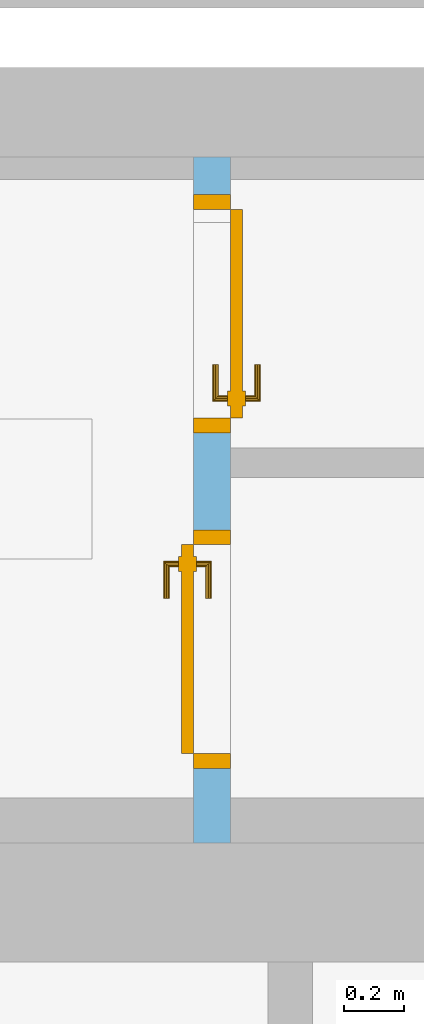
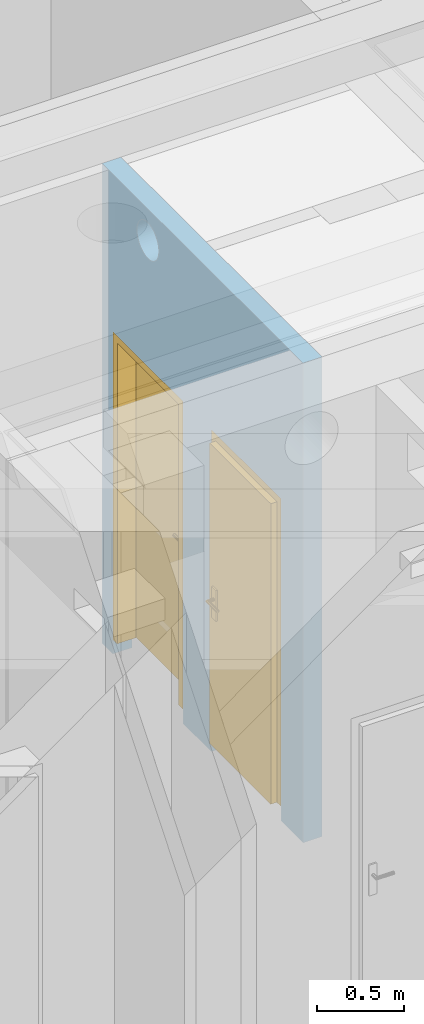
# One storey, part 77 of 140: 2 doors, 3 openings, plus 1 element that does not belong to this part.
"""IFC4 building model written with IfcOpenShell, lengths in metres."""

from ifc_helpers import new_model, entity, si_unit, converted_unit, derived_unit, frame, frame_2d, origin, origin_with_axes, place, context, subcontext, project, spatial, polyline, rectangle, outline, extrude, closed_shell, open_shell, surface_model, source, transform, mapped, material, layer, layer_set, layer_usage, type_object, element, fill, save


model = new_model("IFC4")

# Units and contexts
model_context = context("Model", 3, precision=1e-05, world=origin())
body_context = subcontext(model_context, "Body", "Model", "MODEL_VIEW")
ifc_project = project(units=[si_unit("LENGTHUNIT", "METRE"), si_unit("AREAUNIT", "SQUARE_METRE"), si_unit("VOLUMEUNIT", "CUBIC_METRE"), si_unit("MASSUNIT", "GRAM", prefix="KILO"), converted_unit("PLANEANGLEUNIT", "DEGREE", entity("IfcPlaneAngleMeasure", 0.0174532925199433), si_unit("PLANEANGLEUNIT", "RADIAN"), dimensions=[0, 0, 0, 0, 0, 0, 0]), derived_unit("THERMALTRANSMITTANCEUNIT", [(si_unit("POWERUNIT", "WATT"), 1), (si_unit("THERMODYNAMICTEMPERATUREUNIT", "KELVIN"), -1), (si_unit("LENGTHUNIT", "METRE"), -2)]), derived_unit("VOLUMETRICFLOWRATEUNIT", [(si_unit("LENGTHUNIT", "METRE"), 3), (converted_unit("TIMEUNIT", "hour", entity("IfcTimeMeasure", 3600.0), si_unit("TIMEUNIT", "SECOND"), dimensions=[0, 0, 1, 0, 0, 0, 0]), -1), (si_unit("LENGTHUNIT", "METRE"), -1)])], contexts=[model_context])

# Site, building, storey
site_placement = place(None, origin())
site = spatial("IfcSite", under=ifc_project, at=site_placement, Name="3. ASŘ", CompositionType="ELEMENT")
building_placement = place(site_placement, origin())
building = spatial("IfcBuilding", under=site, at=building_placement, Name="Pavilon C", CompositionType="ELEMENT")
storey_placement = place(building_placement, origin())
storey = spatial("IfcBuildingStorey", under=building, at=storey_placement, Name="Půdorys 1.NP", CompositionType="ELEMENT", Elevation=0.0)

# Wall, openings, doors
ifc_material = material(Name="SDK - 1 KCE + DVOJITÉ OPLÁŠTĚNÍ")
ifc_layer = layer(ifc_material, 0.125)
ifc_layer_set = layer_set([ifc_layer])
ifc_layer_usage = layer_usage(ifc_layer_set, "AXIS2", "POSITIVE", -0.125)
wall_placement = place(storey_placement, frame((38.875, -6.8, -0.1), z_axis=(0.0, 0.0, 1.0), x_axis=(0.0, 1.0, 0.0)))
wall = element("IfcWall", 1, at=wall_placement, inside=storey, material=ifc_layer_usage, Name="SDK - 1 KCE + DVOJITÉ OPLÁŠTĚNÍ", context=body_context, shape_type="SweptSolid", body=[
    extrude(rectangle(XDim=2.3, YDim=0.125, at=frame_2d((1.15, 0.0625), x_axis=(1.0, 0.0))), origin_with_axes(), (0.0, 0.0, 1.0), 3.35),
])
opening_1_placement = place(wall_placement, frame((1.05, 0.125, -0.2), z_axis=(0.0, -1.0, 0.0), x_axis=(0.0, 0.0, 1.0)))
opening_1 = element("IfcOpeningElement", 2, at=opening_1_placement, cuts=wall, Name="Dveřní otvor", ObjectType="Opening", context=body_context, shape_type="SweptSolid", body=[
    extrude(outline(polyline([(0.0, 0.8), (2.45, 0.8), (2.45, 0.0), (0.0, 0.0), (0.0, 0.8)])), origin_with_axes(), (0.0, 0.0, 1.0), 0.125),
])
opening_2_placement = place(wall_placement, frame((1.375, 0.0, -0.2), z_axis=(0.0, 1.0, 0.0), x_axis=(0.0, 0.0, 1.0)))
opening_2 = element("IfcOpeningElement", 3, at=opening_2_placement, cuts=wall, Name="Dveřní otvor", ObjectType="Opening", context=body_context, shape_type="SweptSolid", body=[
    extrude(outline(polyline([(0.0, 0.8), (2.45, 0.8), (2.45, 0.0), (0.0, 0.0), (0.0, 0.8)])), origin_with_axes(), (0.0, 0.0, 1.0), 0.125),
])
opening_3_placement = place(wall_placement, frame((1.89999999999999, 0.125000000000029, 3.005), z_axis=(0.0, -1.0, 0.0), x_axis=(0.0, 0.0, 1.0)))
element("IfcOpeningElement", 4, at=opening_3_placement, cuts=wall, Name="VZT", ObjectType="Opening", context=body_context, shape_type="SweptSolid", body=[
    extrude(outline(polyline([(0.124999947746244, 0.0), (0.11193389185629, 0.000684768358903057), (0.099010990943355, 0.00273156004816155), (0.0863728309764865, 0.00611794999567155), (0.0741578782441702, 0.0108068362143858), (0.0624999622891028, 0.0167468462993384), (0.0515268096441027, 0.0238729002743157), (0.0413586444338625, 0.0321069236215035), (0.0321068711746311, 0.0413587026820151), (0.0238728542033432, 0.0515268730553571), (0.0167468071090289, 0.0625000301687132), (0.0108068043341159, 0.0741579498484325), (0.00611792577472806, 0.0863729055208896), (0.00273154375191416, 0.0990110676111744), (0.000684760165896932, 0.111933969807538), (0.0, 0.125000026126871), (0.000684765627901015, 0.138066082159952), (0.00273155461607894, 0.150988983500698), (0.00611794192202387, 0.163627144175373), (0.0108068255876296, 0.175842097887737), (0.0167468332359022, 0.187500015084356), (0.0238728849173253, 0.198473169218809), (0.0321069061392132, 0.208641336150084), (0.0413586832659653, 0.217893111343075), (0.0515268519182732, 0.226127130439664), (0.0625000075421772, 0.233253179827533), (0.0741579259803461, 0.239193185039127), (0.0863728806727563, 0.243882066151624), (0.0990110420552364, 0.247268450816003), (0.111933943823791, 0.249315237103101), (0.124999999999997, 0.25), (0.138066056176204, 0.249315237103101), (0.150988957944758, 0.247268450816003), (0.163627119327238, 0.243882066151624), (0.175842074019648, 0.239193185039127), (0.187499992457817, 0.233253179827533), (0.198473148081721, 0.226127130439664), (0.208641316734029, 0.217893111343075), (0.217893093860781, 0.208641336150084), (0.226127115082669, 0.198473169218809), (0.233253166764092, 0.187500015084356), (0.239193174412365, 0.175842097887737), (0.243882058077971, 0.163627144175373), (0.247268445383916, 0.150988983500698), (0.249315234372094, 0.138066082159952), (0.249999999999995, 0.125000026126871), (0.249315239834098, 0.111933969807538), (0.24726845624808, 0.0990110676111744), (0.243882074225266, 0.0863729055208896), (0.239193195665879, 0.0741579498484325), (0.233253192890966, 0.0625000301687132), (0.226127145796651, 0.0515268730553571), (0.217893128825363, 0.0413587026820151), (0.208641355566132, 0.0321069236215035), (0.198473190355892, 0.0238729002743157), (0.187500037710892, 0.0167468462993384), (0.175842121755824, 0.0108068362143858), (0.163627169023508, 0.00611794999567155), (0.15098900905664, 0.00273156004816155), (0.138066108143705, 0.000684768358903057), (0.124999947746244, 0.0)])), origin_with_axes(), (0.0, 0.0, 1.0), 0.125),
])
door_type_1 = type_object("IfcDoorType", Name="II.D06", OperationType="NOTDEFINED", ParameterTakesPrecedence=False, PredefinedType="DOOR")
shared_shape_1 = source(origin_with_axes(), body_context, "Body", "SurfaceModel", [
    surface_model("IfcShellBasedSurfaceModel", [(0.0, 0.125, 2.149), (0.0, 0.125, -5.6843418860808e-17), (0.05, 0.125, -5.6843418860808e-17), (0.05, 0.125, 2.149), (0.0, 0.0, -5.6843418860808e-17), (0.0, 2.70006239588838e-16, 2.149), (0.05, 2.70006239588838e-16, 2.149), (0.05, 0.0, -5.6843418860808e-17)], [closed_shell([[[0, 1, 2, 3]], [[4, 5, 6, 7]], [[1, 0, 5, 4]], [[2, 1, 4, 7]], [[3, 2, 7, 6]], [[0, 3, 6, 5]]], orient=[[False], [False], [False], [False], [False], [False]])]),
    surface_model("IfcShellBasedSurfaceModel", [(0.75, 0.125, 2.149), (0.75, 0.125, -5.6843418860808e-17), (0.8, 0.125, -5.6843418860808e-17), (0.8, 0.125, 2.149), (0.75, 0.0, -5.6843418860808e-17), (0.75, 2.70006239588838e-16, 2.149), (0.8, 2.70006239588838e-16, 2.149), (0.8, 0.0, -5.6843418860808e-17)], [closed_shell([[[0, 1, 2, 3]], [[4, 5, 6, 7]], [[1, 0, 5, 4]], [[2, 1, 4, 7]], [[3, 2, 7, 6]], [[0, 3, 6, 5]]], orient=[[False], [False], [False], [False], [False], [False]])]),
    surface_model("IfcShellBasedSurfaceModel", [(0.05, 0.125, 2.149), (0.05, 0.125, 2.099), (0.75, 0.125, 2.099), (0.75, 0.125, 2.149), (0.05, 2.55795384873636e-16, 2.099), (0.05, 2.55795384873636e-16, 2.149), (0.75, 2.55795384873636e-16, 2.149), (0.75, 2.55795384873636e-16, 2.099)], [closed_shell([[[0, 1, 2, 3]], [[4, 5, 6, 7]], [[1, 0, 5, 4]], [[2, 1, 4, 7]], [[3, 2, 7, 6]], [[0, 3, 6, 5]]], orient=[[False], [False], [False], [False], [False], [False]])]),
    surface_model("IfcShellBasedSurfaceModel", [(0.05, 0.165, 2.099), (0.05, 0.165, -5.6843418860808e-17), (0.75, 0.165, -5.6843418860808e-17), (0.75, 0.165, 2.099), (0.05, 0.125, -5.6843418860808e-17), (0.05, 0.125, 2.099), (0.75, 0.125, 2.099), (0.75, 0.125, -5.6843418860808e-17)], [closed_shell([[[0, 1, 2, 3]], [[4, 5, 6, 7]], [[1, 0, 5, 4]], [[2, 1, 4, 7]], [[3, 2, 7, 6]], [[0, 3, 6, 5]]], orient=[[False], [False], [False], [False], [False], [False]])]),
    surface_model("IfcShellBasedSurfaceModel", [(0.66, 0.125, 1.125), (0.66, 0.125, 0.91), (0.71, 0.125, 0.91), (0.71, 0.125, 1.125), (0.66, 0.115, 0.91), (0.66, 0.115, 1.125), (0.71, 0.115, 1.125), (0.71, 0.115, 0.91)], [closed_shell([[[0, 1, 2, 3]], [[4, 5, 6, 7]], [[1, 0, 5, 4]], [[2, 1, 4, 7]], [[3, 2, 7, 6]], [[0, 3, 6, 5]]], orient=[[False], [False], [False], [False], [False], [False]])]),
    surface_model("IfcShellBasedSurfaceModel", [(0.685, 0.115, 1.06), (0.68, 0.115, 1.05866025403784), (0.676339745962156, 0.115, 1.055), (0.675, 0.115, 1.05), (0.676339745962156, 0.115, 1.045), (0.68, 0.115, 1.04133974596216), (0.685, 0.115, 1.04), (0.69, 0.115, 1.04133974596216), (0.693660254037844, 0.115, 1.045), (0.695, 0.115, 1.05), (0.693660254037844, 0.115, 1.055), (0.69, 0.115, 1.05866025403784), (0.69, 0.0700000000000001, 1.05866025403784), (0.685, 0.0750000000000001, 1.06), (0.693660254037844, 0.0663397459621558, 1.055), (0.695, 0.0650000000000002, 1.05), (0.693660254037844, 0.0663397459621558, 1.045), (0.69, 0.0700000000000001, 1.04133974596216), (0.685, 0.0750000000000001, 1.04), (0.68, 0.0800000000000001, 1.04133974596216), (0.676339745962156, 0.0836602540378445, 1.045), (0.675, 0.0850000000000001, 1.05), (0.676339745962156, 0.0836602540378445, 1.055), (0.68, 0.0800000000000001, 1.05866025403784), (0.57, 0.0700000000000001, 1.05866025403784), (0.57, 0.0750000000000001, 1.06), (0.57, 0.0663397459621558, 1.055), (0.57, 0.0650000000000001, 1.05), (0.57, 0.0663397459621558, 1.045), (0.57, 0.0700000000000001, 1.04133974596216), (0.57, 0.0750000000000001, 1.04), (0.57, 0.0800000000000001, 1.04133974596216), (0.57, 0.0836602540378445, 1.045), (0.57, 0.0850000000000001, 1.05), (0.57, 0.0836602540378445, 1.055), (0.57, 0.0800000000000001, 1.05866025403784)], [open_shell([[[0, 1, 2, 3, 4, 5, 6, 7, 8, 9, 10, 11]], [[0, 11, 12, 13]], [[11, 10, 14, 12]], [[10, 9, 15, 14]], [[9, 8, 16, 15]], [[8, 7, 17, 16]], [[7, 6, 18, 17]], [[6, 5, 19, 18]], [[5, 4, 20, 19]], [[4, 3, 21, 20]], [[3, 2, 22, 21]], [[2, 1, 23, 22]], [[1, 0, 13, 23]], [[13, 12, 24, 25]], [[12, 14, 26, 24]], [[14, 15, 27, 26]], [[15, 16, 28, 27]], [[16, 17, 29, 28]], [[17, 18, 30, 29]], [[18, 19, 31, 30]], [[19, 20, 32, 31]], [[20, 21, 33, 32]], [[21, 22, 34, 33]], [[22, 23, 35, 34]], [[23, 13, 25, 35]]], orient=[[False], [False], [False], [False], [False], [False], [False], [False], [False], [False], [False], [False], [False], [False], [False], [False], [False], [False], [False], [False], [False], [False], [False], [False], [False]])]),
    surface_model("IfcShellBasedSurfaceModel", [(0.66, 0.165, 1.125), (0.71, 0.165, 1.125), (0.71, 0.165, 0.91), (0.66, 0.165, 0.91), (0.66, 0.175, 0.91), (0.71, 0.175, 0.91), (0.71, 0.175, 1.125), (0.66, 0.175, 1.125)], [closed_shell([[[0, 1, 2, 3]], [[4, 5, 6, 7]], [[3, 4, 7, 0]], [[2, 5, 4, 3]], [[1, 6, 5, 2]], [[0, 7, 6, 1]]], orient=[[False], [False], [False], [False], [False], [False]])]),
    surface_model("IfcShellBasedSurfaceModel", [(0.685, 0.175, 1.06), (0.69, 0.175, 1.05866025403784), (0.693660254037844, 0.175, 1.055), (0.695, 0.175, 1.05), (0.693660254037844, 0.175, 1.045), (0.69, 0.175, 1.04133974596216), (0.685, 0.175, 1.04), (0.68, 0.175, 1.04133974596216), (0.676339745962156, 0.175, 1.045), (0.675, 0.175, 1.05), (0.676339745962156, 0.175, 1.055), (0.68, 0.175, 1.05866025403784), (0.685, 0.215, 1.06), (0.69, 0.22, 1.05866025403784), (0.693660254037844, 0.223660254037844, 1.055), (0.695, 0.225, 1.05), (0.693660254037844, 0.223660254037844, 1.045), (0.69, 0.22, 1.04133974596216), (0.685, 0.215, 1.04), (0.68, 0.21, 1.04133974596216), (0.676339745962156, 0.206339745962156, 1.045), (0.675, 0.205, 1.05), (0.676339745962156, 0.206339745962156, 1.055), (0.68, 0.21, 1.05866025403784), (0.57, 0.215, 1.06), (0.57, 0.22, 1.05866025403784), (0.57, 0.223660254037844, 1.055), (0.57, 0.225, 1.05), (0.57, 0.223660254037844, 1.045), (0.57, 0.22, 1.04133974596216), (0.57, 0.215, 1.04), (0.57, 0.21, 1.04133974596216), (0.57, 0.206339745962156, 1.045), (0.57, 0.205, 1.05), (0.57, 0.206339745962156, 1.055), (0.57, 0.21, 1.05866025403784)], [open_shell([[[0, 1, 2, 3, 4, 5, 6, 7, 8, 9, 10, 11]], [[0, 12, 13, 1]], [[1, 13, 14, 2]], [[2, 14, 15, 3]], [[3, 15, 16, 4]], [[4, 16, 17, 5]], [[5, 17, 18, 6]], [[6, 18, 19, 7]], [[7, 19, 20, 8]], [[8, 20, 21, 9]], [[9, 21, 22, 10]], [[10, 22, 23, 11]], [[11, 23, 12, 0]], [[12, 24, 25, 13]], [[13, 25, 26, 14]], [[14, 26, 27, 15]], [[15, 27, 28, 16]], [[16, 28, 29, 17]], [[17, 29, 30, 18]], [[18, 30, 31, 19]], [[19, 31, 32, 20]], [[20, 32, 33, 21]], [[21, 33, 34, 22]], [[22, 34, 35, 23]], [[23, 35, 24, 12]]], orient=[[False], [False], [False], [False], [False], [False], [False], [False], [False], [False], [False], [False], [False], [False], [False], [False], [False], [False], [False], [False], [False], [False], [False], [False], [False]])]),
])
door_1_placement = place(opening_1_placement, frame((0.301, 0.799999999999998, 0.124999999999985), z_axis=(1.0, 0.0, 0.0), x_axis=(0.0, -1.0, 1.22464679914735e-16)))
door_1 = element("IfcDoor", 5, at=door_1_placement, inside=storey, type_object=door_type_1, Name="II.D06", OverallHeight=2.45, OverallWidth=0.8, context=body_context, shape_type="MappedRepresentation", body=[
    mapped(shared_shape_1, transform((0.0, 0.0, 0.0), x_axis=(1.0, 0.0, 0.0), y_axis=(0.0, 1.0, 0.0), z_axis=(0.0, 0.0, 1.0), scale=1.0)),
])
fill(opening_1, door_1)
door_type_2 = type_object("IfcDoorType", Name="II.D05", OperationType="NOTDEFINED", ParameterTakesPrecedence=False, PredefinedType="DOOR")
shared_shape_2 = source(origin_with_axes(), body_context, "Body", "SurfaceModel", [
    surface_model("IfcShellBasedSurfaceModel", [(0.0, 0.125, 2.149), (0.0, 0.125, -5.6843418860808e-17), (0.05, 0.125, -5.6843418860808e-17), (0.05, 0.125, 2.149), (0.0, 0.0, -5.6843418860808e-17), (0.0, 2.70006239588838e-16, 2.149), (0.05, 2.70006239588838e-16, 2.149), (0.05, 0.0, -5.6843418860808e-17)], [closed_shell([[[0, 1, 2, 3]], [[4, 5, 6, 7]], [[1, 0, 5, 4]], [[2, 1, 4, 7]], [[3, 2, 7, 6]], [[0, 3, 6, 5]]], orient=[[False], [False], [False], [False], [False], [False]])]),
    surface_model("IfcShellBasedSurfaceModel", [(0.75, 0.125, 2.149), (0.75, 0.125, -5.6843418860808e-17), (0.8, 0.125, -5.6843418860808e-17), (0.8, 0.125, 2.149), (0.75, 0.0, -5.6843418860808e-17), (0.75, 2.70006239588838e-16, 2.149), (0.8, 2.70006239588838e-16, 2.149), (0.8, 0.0, -5.6843418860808e-17)], [closed_shell([[[0, 1, 2, 3]], [[4, 5, 6, 7]], [[1, 0, 5, 4]], [[2, 1, 4, 7]], [[3, 2, 7, 6]], [[0, 3, 6, 5]]], orient=[[False], [False], [False], [False], [False], [False]])]),
    surface_model("IfcShellBasedSurfaceModel", [(0.05, 0.125, 2.149), (0.05, 0.125, 2.099), (0.75, 0.125, 2.099), (0.75, 0.125, 2.149), (0.05, 2.55795384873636e-16, 2.099), (0.05, 2.55795384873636e-16, 2.149), (0.75, 2.55795384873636e-16, 2.149), (0.75, 2.55795384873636e-16, 2.099)], [closed_shell([[[0, 1, 2, 3]], [[4, 5, 6, 7]], [[1, 0, 5, 4]], [[2, 1, 4, 7]], [[3, 2, 7, 6]], [[0, 3, 6, 5]]], orient=[[False], [False], [False], [False], [False], [False]])]),
    surface_model("IfcShellBasedSurfaceModel", [(0.05, 0.165, 2.099), (0.05, 0.165, -5.6843418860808e-17), (0.75, 0.165, -5.6843418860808e-17), (0.75, 0.165, 2.099), (0.05, 0.125, -5.6843418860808e-17), (0.05, 0.125, 2.099), (0.75, 0.125, 2.099), (0.75, 0.125, -5.6843418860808e-17)], [closed_shell([[[0, 1, 2, 3]], [[4, 5, 6, 7]], [[1, 0, 5, 4]], [[2, 1, 4, 7]], [[3, 2, 7, 6]], [[0, 3, 6, 5]]], orient=[[False], [False], [False], [False], [False], [False]])]),
    surface_model("IfcShellBasedSurfaceModel", [(0.66, 0.125, 1.125), (0.66, 0.125, 0.91), (0.71, 0.125, 0.91), (0.71, 0.125, 1.125), (0.66, 0.115, 0.91), (0.66, 0.115, 1.125), (0.71, 0.115, 1.125), (0.71, 0.115, 0.91)], [closed_shell([[[0, 1, 2, 3]], [[4, 5, 6, 7]], [[1, 0, 5, 4]], [[2, 1, 4, 7]], [[3, 2, 7, 6]], [[0, 3, 6, 5]]], orient=[[False], [False], [False], [False], [False], [False]])]),
    surface_model("IfcShellBasedSurfaceModel", [(0.685, 0.115, 1.06), (0.68, 0.115, 1.05866025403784), (0.676339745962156, 0.115, 1.055), (0.675, 0.115, 1.05), (0.676339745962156, 0.115, 1.045), (0.68, 0.115, 1.04133974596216), (0.685, 0.115, 1.04), (0.69, 0.115, 1.04133974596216), (0.693660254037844, 0.115, 1.045), (0.695, 0.115, 1.05), (0.693660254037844, 0.115, 1.055), (0.69, 0.115, 1.05866025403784), (0.69, 0.0700000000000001, 1.05866025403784), (0.685, 0.0750000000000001, 1.06), (0.693660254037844, 0.0663397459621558, 1.055), (0.695, 0.0650000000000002, 1.05), (0.693660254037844, 0.0663397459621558, 1.045), (0.69, 0.0700000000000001, 1.04133974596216), (0.685, 0.0750000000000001, 1.04), (0.68, 0.0800000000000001, 1.04133974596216), (0.676339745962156, 0.0836602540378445, 1.045), (0.675, 0.0850000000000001, 1.05), (0.676339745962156, 0.0836602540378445, 1.055), (0.68, 0.0800000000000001, 1.05866025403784), (0.57, 0.0700000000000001, 1.05866025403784), (0.57, 0.0750000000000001, 1.06), (0.57, 0.0663397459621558, 1.055), (0.57, 0.0650000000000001, 1.05), (0.57, 0.0663397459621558, 1.045), (0.57, 0.0700000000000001, 1.04133974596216), (0.57, 0.0750000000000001, 1.04), (0.57, 0.0800000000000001, 1.04133974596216), (0.57, 0.0836602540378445, 1.045), (0.57, 0.0850000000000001, 1.05), (0.57, 0.0836602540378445, 1.055), (0.57, 0.0800000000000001, 1.05866025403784)], [open_shell([[[0, 1, 2, 3, 4, 5, 6, 7, 8, 9, 10, 11]], [[0, 11, 12, 13]], [[11, 10, 14, 12]], [[10, 9, 15, 14]], [[9, 8, 16, 15]], [[8, 7, 17, 16]], [[7, 6, 18, 17]], [[6, 5, 19, 18]], [[5, 4, 20, 19]], [[4, 3, 21, 20]], [[3, 2, 22, 21]], [[2, 1, 23, 22]], [[1, 0, 13, 23]], [[13, 12, 24, 25]], [[12, 14, 26, 24]], [[14, 15, 27, 26]], [[15, 16, 28, 27]], [[16, 17, 29, 28]], [[17, 18, 30, 29]], [[18, 19, 31, 30]], [[19, 20, 32, 31]], [[20, 21, 33, 32]], [[21, 22, 34, 33]], [[22, 23, 35, 34]], [[23, 13, 25, 35]]], orient=[[False], [False], [False], [False], [False], [False], [False], [False], [False], [False], [False], [False], [False], [False], [False], [False], [False], [False], [False], [False], [False], [False], [False], [False], [False]])]),
    surface_model("IfcShellBasedSurfaceModel", [(0.66, 0.165, 1.125), (0.71, 0.165, 1.125), (0.71, 0.165, 0.91), (0.66, 0.165, 0.91), (0.66, 0.175, 0.91), (0.71, 0.175, 0.91), (0.71, 0.175, 1.125), (0.66, 0.175, 1.125)], [closed_shell([[[0, 1, 2, 3]], [[4, 5, 6, 7]], [[3, 4, 7, 0]], [[2, 5, 4, 3]], [[1, 6, 5, 2]], [[0, 7, 6, 1]]], orient=[[False], [False], [False], [False], [False], [False]])]),
    surface_model("IfcShellBasedSurfaceModel", [(0.685, 0.175, 1.06), (0.69, 0.175, 1.05866025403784), (0.693660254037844, 0.175, 1.055), (0.695, 0.175, 1.05), (0.693660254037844, 0.175, 1.045), (0.69, 0.175, 1.04133974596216), (0.685, 0.175, 1.04), (0.68, 0.175, 1.04133974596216), (0.676339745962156, 0.175, 1.045), (0.675, 0.175, 1.05), (0.676339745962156, 0.175, 1.055), (0.68, 0.175, 1.05866025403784), (0.685, 0.215, 1.06), (0.69, 0.22, 1.05866025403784), (0.693660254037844, 0.223660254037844, 1.055), (0.695, 0.225, 1.05), (0.693660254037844, 0.223660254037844, 1.045), (0.69, 0.22, 1.04133974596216), (0.685, 0.215, 1.04), (0.68, 0.21, 1.04133974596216), (0.676339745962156, 0.206339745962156, 1.045), (0.675, 0.205, 1.05), (0.676339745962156, 0.206339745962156, 1.055), (0.68, 0.21, 1.05866025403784), (0.57, 0.215, 1.06), (0.57, 0.22, 1.05866025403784), (0.57, 0.223660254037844, 1.055), (0.57, 0.225, 1.05), (0.57, 0.223660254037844, 1.045), (0.57, 0.22, 1.04133974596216), (0.57, 0.215, 1.04), (0.57, 0.21, 1.04133974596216), (0.57, 0.206339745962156, 1.045), (0.57, 0.205, 1.05), (0.57, 0.206339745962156, 1.055), (0.57, 0.21, 1.05866025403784)], [open_shell([[[0, 1, 2, 3, 4, 5, 6, 7, 8, 9, 10, 11]], [[0, 12, 13, 1]], [[1, 13, 14, 2]], [[2, 14, 15, 3]], [[3, 15, 16, 4]], [[4, 16, 17, 5]], [[5, 17, 18, 6]], [[6, 18, 19, 7]], [[7, 19, 20, 8]], [[8, 20, 21, 9]], [[9, 21, 22, 10]], [[10, 22, 23, 11]], [[11, 23, 12, 0]], [[12, 24, 25, 13]], [[13, 25, 26, 14]], [[14, 26, 27, 15]], [[15, 27, 28, 16]], [[16, 28, 29, 17]], [[17, 29, 30, 18]], [[18, 30, 31, 19]], [[19, 31, 32, 20]], [[20, 32, 33, 21]], [[21, 33, 34, 22]], [[22, 34, 35, 23]], [[23, 35, 24, 12]]], orient=[[False], [False], [False], [False], [False], [False], [False], [False], [False], [False], [False], [False], [False], [False], [False], [False], [False], [False], [False], [False], [False], [False], [False], [False], [False]])]),
])
door_2_placement = place(opening_2_placement, frame((0.301, 0.800000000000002, 0.125000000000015), z_axis=(1.0, 0.0, 0.0), x_axis=(0.0, -1.0, 2.44929359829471e-16)))
door_2 = element("IfcDoor", 6, at=door_2_placement, inside=storey, type_object=door_type_2, Name="II.D05", OverallHeight=2.45, OverallWidth=0.8, context=body_context, shape_type="MappedRepresentation", body=[
    mapped(shared_shape_2, transform((0.0, 0.0, 0.0), x_axis=(1.0, 0.0, 0.0), y_axis=(0.0, 1.0, 0.0), z_axis=(0.0, 0.0, 1.0), scale=1.0)),
])
fill(opening_2, door_2)

save(model, "model.ifc")
